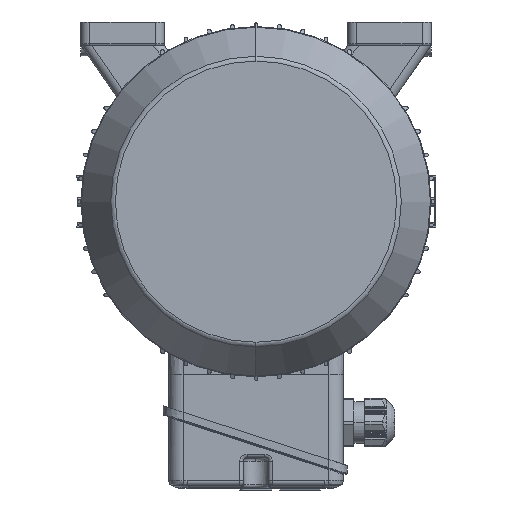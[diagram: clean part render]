
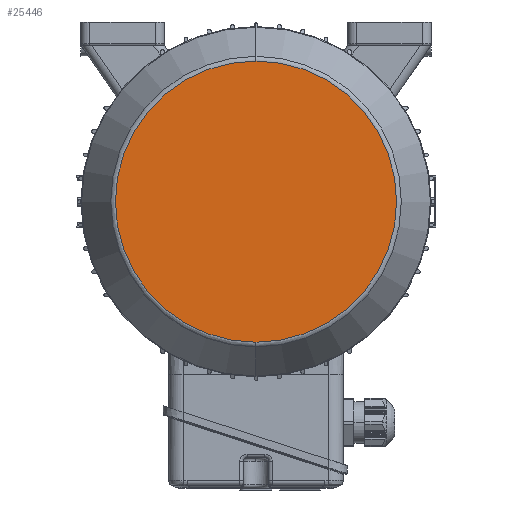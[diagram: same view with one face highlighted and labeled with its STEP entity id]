
A CAD part, left-side view. The second image highlights one B-rep face of the part: STEP entity #25446.
In plain terms, the highlighted planar face has unit normal (-1, 0, 0).
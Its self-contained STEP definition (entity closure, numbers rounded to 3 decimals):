
#57 = FACE_OUTER_BOUND ( 'NONE', #32990, .T. ) ;
#1308 = CARTESIAN_POINT ( 'NONE',  ( -191.5, 0., 0. ) ) ;
#1809 = ORIENTED_EDGE ( 'NONE', *, *, #9321, .F. ) ;
#4422 = DIRECTION ( 'NONE',  ( 0., 0., -1. ) ) ;
#7579 = ORIENTED_EDGE ( 'NONE', *, *, #44272, .F. ) ;
#9321 = EDGE_CURVE ( 'NONE', #25579, #23971, #42044, .T. ) ;
#11708 = DIRECTION ( 'NONE',  ( 1., 0., 0. ) ) ;
#13222 = DIRECTION ( 'NONE',  ( 0., 1., 0. ) ) ;
#13821 = AXIS2_PLACEMENT_3D ( 'NONE', #1308, #11708, #4422 ) ;
#15949 = AXIS2_PLACEMENT_3D ( 'NONE', #44880, #30353, #13222 ) ;
#18076 = CARTESIAN_POINT ( 'NONE',  ( -191.5, 0., -78.268 ) ) ;
#23971 = VERTEX_POINT ( 'NONE', #18076 ) ;
#24859 = CARTESIAN_POINT ( 'NONE',  ( -191.5, 0., 78.268 ) ) ;
#25446 = ADVANCED_FACE ( 'NONE', ( #57 ), #45343, .T. ) ;
#25579 = VERTEX_POINT ( 'NONE', #24859 ) ;
#25639 = CARTESIAN_POINT ( 'NONE',  ( -191.5, 0., 0. ) ) ;
#29226 = DIRECTION ( 'NONE',  ( 1., 0., 0. ) ) ;
#29393 = AXIS2_PLACEMENT_3D ( 'NONE', #25639, #29226, #36433 ) ;
#30353 = DIRECTION ( 'NONE',  ( -1., 0., 0. ) ) ;
#32990 = EDGE_LOOP ( 'NONE', ( #7579, #1809 ) ) ;
#36433 = DIRECTION ( 'NONE',  ( 0., 0., -1. ) ) ;
#42044 = CIRCLE ( 'NONE', #29393, 78.268 ) ;
#44272 = EDGE_CURVE ( 'NONE', #23971, #25579, #44462, .T. ) ;
#44462 = CIRCLE ( 'NONE', #13821, 78.268 ) ;
#44880 = CARTESIAN_POINT ( 'NONE',  ( -191.5, 0., -78.268 ) ) ;
#45343 = PLANE ( 'NONE',  #15949 ) ;
